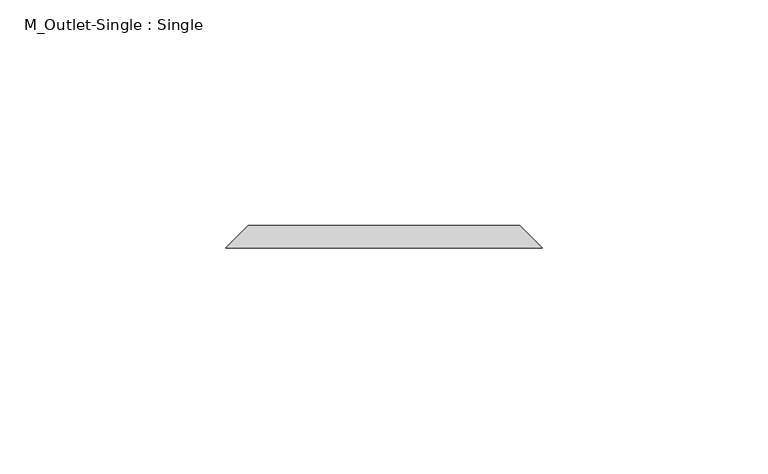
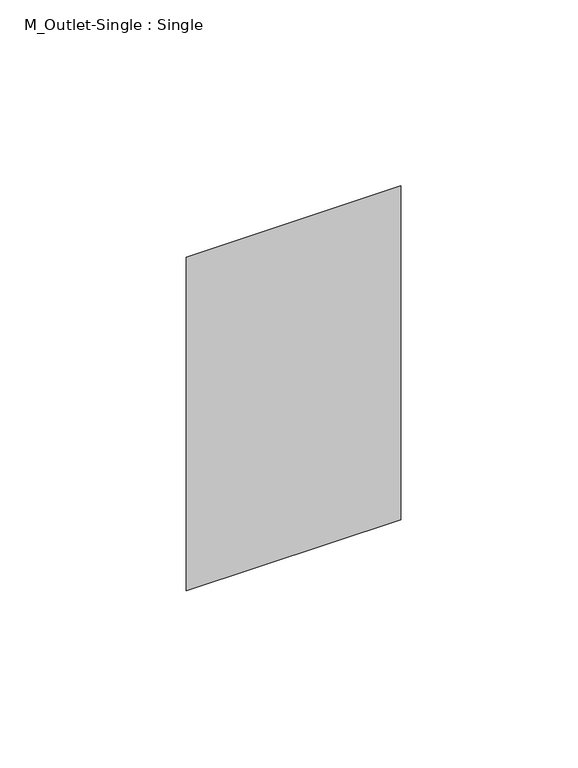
"""IFC4 building model written with IfcOpenShell, lengths in millimetres: proxy geometry, M_Outlet-Single : Single."""

from ifc_helpers import new_model, si_unit, origin, place, context, project, spatial, faceted_brep, source, transform, mapped, element, save


def m_outlet_single_single_36af28d8(model_context):
    return source(origin(), model_context, "Body", "Brep", [
        faceted_brep([(95.0, 40.0, 357.5), (155.0, 40.0, 357.5), (155.0, 40.0, 252.5), (95.0, 40.0, 252.5), (90.0, 35.0, 362.5), (90.0, 35.0, 247.5), (160.0, 35.0, 247.5), (160.0, 35.0, 362.5)], [[[0, 1, 2, 3]], [[4, 5, 6, 7]], [[4, 7, 1, 0]], [[7, 6, 2, 1]], [[6, 5, 3, 2]], [[5, 4, 0, 3]]]),
    ])


if __name__ == "__main__":
    model = new_model("IFC4")
    model_context = context("Model", 3, world=origin())
    ifc_project = project(units=[si_unit("LENGTHUNIT", "METRE", prefix="MILLI")], contexts=[model_context])
    site = spatial("IfcSite", under=ifc_project)
    building = spatial("IfcBuilding", under=site)
    placement = place(None, origin())
    m_outlet_single_single_shape = m_outlet_single_single_36af28d8(model_context)
    element("IfcBuildingElementProxy", 1, Name="M_Outlet-Single : Single", ObjectType="M_Outlet-Single : Single", at=placement, inside=building, context=model_context, shape_type="MappedRepresentation", body=[
        mapped(m_outlet_single_single_shape, transform((0.0, 0.0, 0.0), x_axis=(1.0, 0.0, 0.0), y_axis=(0.0, 1.0, 0.0), z_axis=(0.0, 0.0, 1.0))),
    ])
    save(model, "model.ifc")
